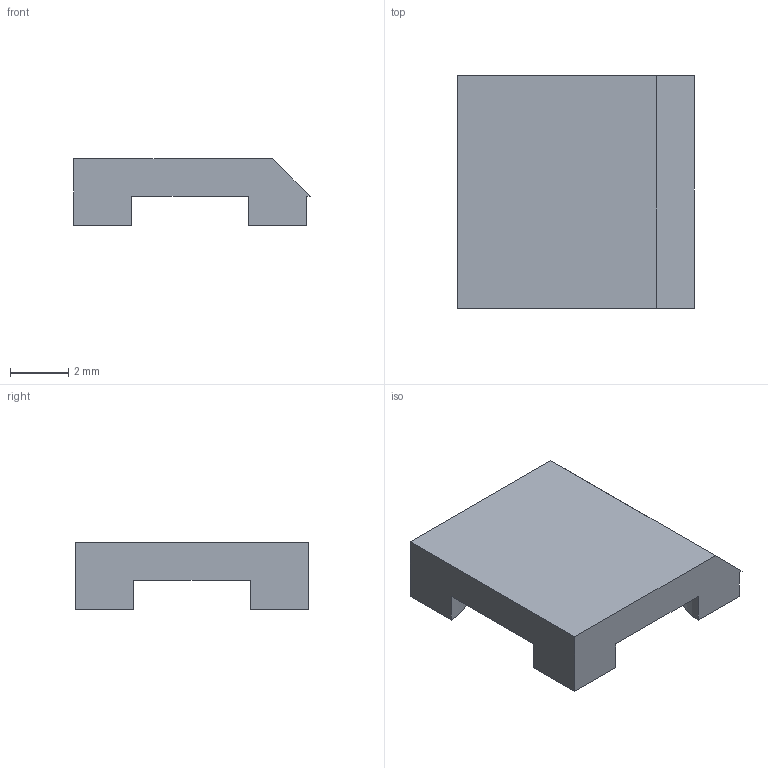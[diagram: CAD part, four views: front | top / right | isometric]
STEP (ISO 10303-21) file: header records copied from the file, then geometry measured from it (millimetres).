
FILE_DESCRIPTION(('HOOPS Exchange Step'),'2;1');
FILE_NAME('/private/var/mobile/Containers/Data/Application/40CBF64F-6639-4B2B-A208-5785F35D5F97/tmp/export/temp_export','2025-11-28T12:09:24+08:00',('mobile'),('Shapr3D Limited'),'HOOPS Exchange 2025.7','Shapr3D','Authorized');
FILE_SCHEMA( ('AP242_MANAGED_MODEL_BASED_3D_ENGINEERING_MIM_LF {1 0 10303 442 1 1 4}') );
Length unit declared in the file: millimetre
Products named in the file (1): root
Bounding box: 8.13 x 8 x 2.3 mm (x, y, z)
Volume: 90.4 mm3; surface area: 192.9 mm2
Topology: 1 solids, 1 shells, 16 faces, 42 edges, 28 vertices
Faces by surface type: plane 12, cylinder 4
Entity records: 530 total; most frequent: CARTESIAN_POINT 88, DIRECTION 86, ORIENTED_EDGE 84, EDGE_CURVE 42, VECTOR 34, LINE 34, VERTEX_POINT 28, AXIS2_PLACEMENT_3D 26
